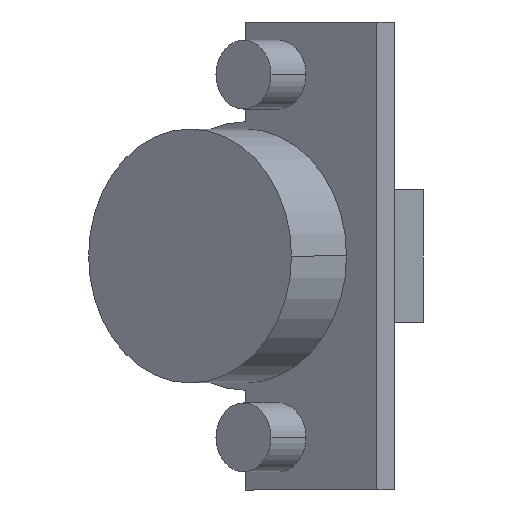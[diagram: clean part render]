
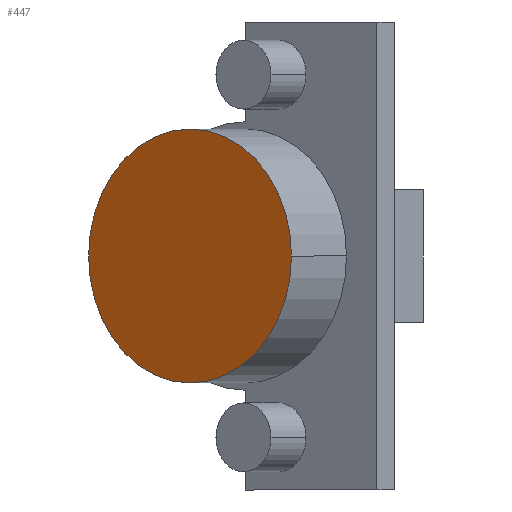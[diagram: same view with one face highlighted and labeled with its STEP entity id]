
A CAD part, front view. The second image highlights one B-rep face of the part: STEP entity #447.
In plain terms, the highlighted planar face has unit normal (-0.602, -0.799, 0).
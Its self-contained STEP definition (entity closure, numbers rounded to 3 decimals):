
#20 = EDGE_CURVE ( 'NONE', #1687, #1651, #679, .T. ) ;
#130 = EDGE_CURVE ( 'NONE', #1651, #1687, #882, .T. ) ;
#147 = AXIS2_PLACEMENT_3D ( 'NONE', #1031, #1032, #1033 ) ;
#166 = AXIS2_PLACEMENT_3D ( 'NONE', #1265, #1269, #1270 ) ;
#185 = AXIS2_PLACEMENT_3D ( 'NONE', #1340, #1343, #1344 ) ;
#447 = ADVANCED_FACE ( 'NONE', ( #908 ), #1341, .T. ) ;
#562 = ORIENTED_EDGE ( 'NONE', *, *, #130, .T. ) ;
#563 = ORIENTED_EDGE ( 'NONE', *, *, #20, .T. ) ;
#620 = EDGE_LOOP ( 'NONE', ( #563, #562 ) ) ;
#679 = CIRCLE ( 'NONE', #147, 17.5 ) ;
#882 = CIRCLE ( 'NONE', #166, 17.5 ) ;
#908 = FACE_OUTER_BOUND ( 'NONE', #620, .T. ) ;
#1031 = CARTESIAN_POINT ( 'NONE',  ( -6.333, -10.063, 0. ) ) ;
#1032 = DIRECTION ( 'NONE',  ( -0.602, -0.799, 0. ) ) ;
#1033 = DIRECTION ( 'NONE',  ( 0.799, -0.602, 0. ) ) ;
#1265 = CARTESIAN_POINT ( 'NONE',  ( -6.333, -10.063, 0. ) ) ;
#1269 = DIRECTION ( 'NONE',  ( -0.602, -0.799, 0. ) ) ;
#1270 = DIRECTION ( 'NONE',  ( 0.799, -0.602, 0. ) ) ;
#1340 = CARTESIAN_POINT ( 'NONE',  ( -6.333, -10.063, 0. ) ) ;
#1341 = PLANE ( 'NONE',  #185 ) ;
#1343 = DIRECTION ( 'NONE',  ( -0.602, -0.799, 0. ) ) ;
#1344 = DIRECTION ( 'NONE',  ( 0.799, -0.602, 0. ) ) ;
#1563 = CARTESIAN_POINT ( 'NONE',  ( 7.643, -20.595, 0. ) ) ;
#1599 = CARTESIAN_POINT ( 'NONE',  ( -20.309, 0.469, 0. ) ) ;
#1651 = VERTEX_POINT ( 'NONE', #1563 ) ;
#1687 = VERTEX_POINT ( 'NONE', #1599 ) ;
